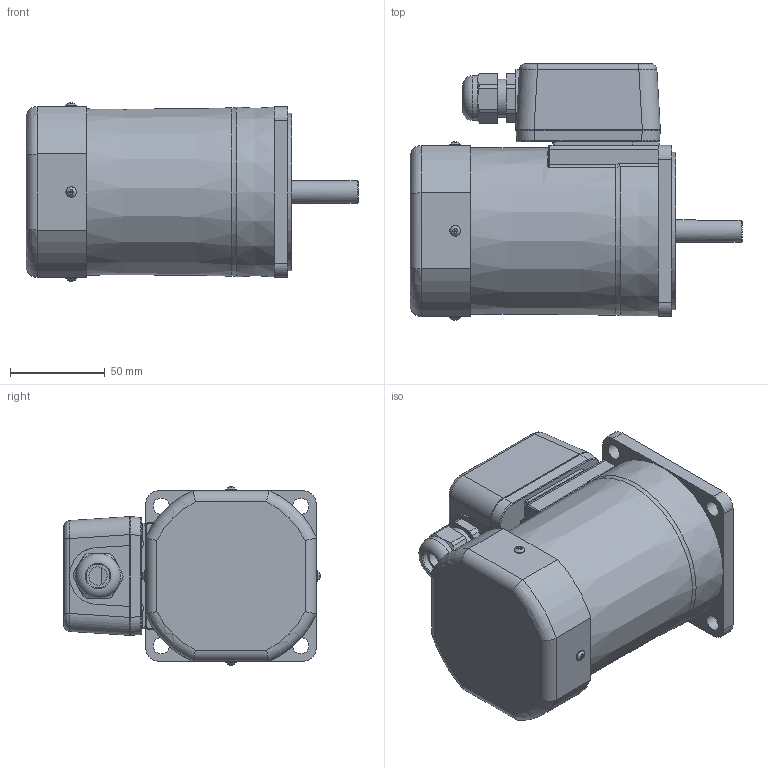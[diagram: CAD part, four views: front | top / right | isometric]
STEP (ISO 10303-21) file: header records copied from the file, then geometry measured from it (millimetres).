
FILE_DESCRIPTION(/* description */ (''),/* implementation_level */ '2;1');
FILE_NAME(/* name */ 'E:\도면작업\2016\0704) 미주향 SG 도면\3D MOTOR\TERMINAL BOX TYPE\INDUCTION TERMINAL BOX\SG9I90K_-T.stp',/* time_stamp */ '2017-01-23T19:21:23+09:00',/* author */ ('jy-jung'),/* organization */ (''),/* preprocessor_version */ 'ST-DEVELOPER v15.6',/* originating_system */ 'Autodesk Inventor 2015',/* authorisation */ '');
FILE_SCHEMA (('AUTOMOTIVE_DESIGN { 1 0 10303 214 3 1 1 }'));
Length unit declared in the file: millimetre
Products named in the file (1): 부품2
Bounding box: 174.8 x 134.95 x 93.89 mm (x, y, z)
Volume: 1088820.8 mm3; surface area: 83672.2 mm2
Topology: 1 solids, 13 shells, 471 faces, 1175 edges, 750 vertices
Faces by surface type: plane 252, cylinder 121, bspline 56, torus 33, cone 9
Full cylindrical faces by diameter (mm): 2.55 x2, 3 x4, 3.5 x4, 5.6 x8, 6.3 x4, 8.5 x4, 12 x1, 12.5 x1, 15 x1, 20 x2, 21 x1, 23.6 x1, 40 x1, 83 x1
Entity records: 16048 total; most frequent: CARTESIAN_POINT 5014, ORIENTED_EDGE 2192, DIRECTION 2037, EDGE_CURVE 1096, VERTEX_POINT 736, AXIS2_PLACEMENT_3D 729, LINE 579, VECTOR 579
